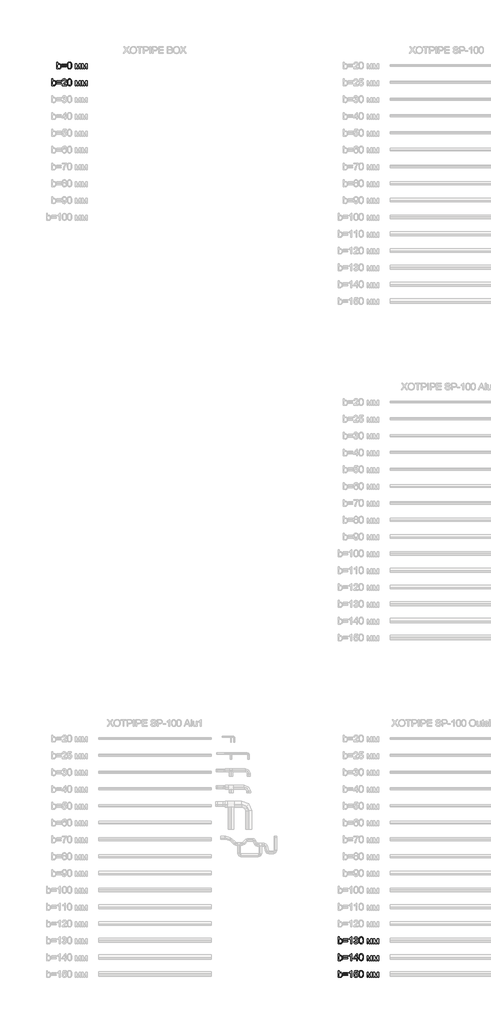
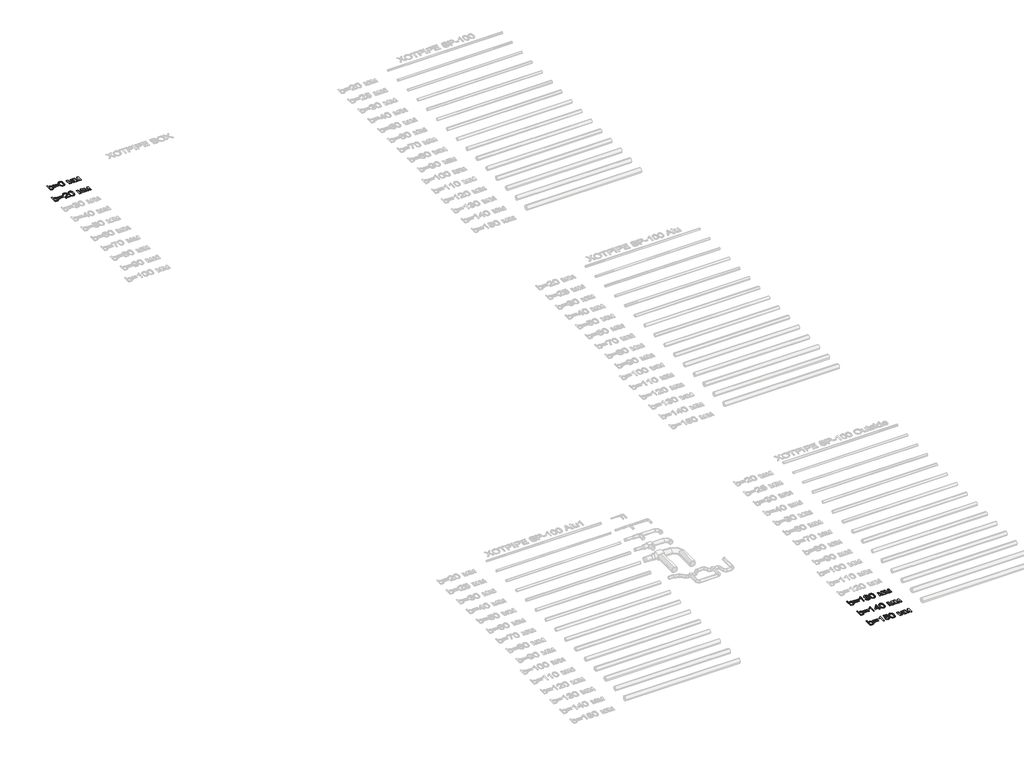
# One storey, part 49 of 86: 5 proxies.
"""IFC4 building model written with IfcOpenShell, lengths in millimetres."""

import ifcopenshell
import ifcopenshell.guid

model = None  # the IFC model being written
_history = None  # IfcOwnerHistory: only IFC2X3 demands one
_inside = {}  # id of a spatial element -> (the spatial element, [elements in it])
_under = {}  # id of a project, library or spatial element -> (it, [spatial elements below it])
_declared = {}  # id of a project -> (the project, [libraries it declares])
_typed = {}  # id of a type object -> (the type object, [elements of that type])
_made_of = {}  # id of a material, layer set ... -> (it, [elements and type objects made of it])


def new_model(schema):
    """Start an empty IFC model of exactly this schema.

    Asked for "IFC4X3", IfcOpenShell would pick the latest addendum, in which some entities
    have other attributes; the version numbers below select the first issue.
    IFC2X3 requires an IfcOwnerHistory on every rooted entity: one is made here for all.
    """
    global model, _history
    if schema == "IFC4X3":
        model = ifcopenshell.file(schema_version=(4, 3, 0, 0))
    else:
        model = ifcopenshell.file(schema=schema)
    _inside.clear()
    _under.clear()
    _declared.clear()
    _typed.clear()
    _made_of.clear()
    _history = None
    if model.schema == "IFC2X3":
        org = make("IfcOrganization", Name="unknown")
        user = make(
            "IfcPersonAndOrganization",
            ThePerson=make("IfcPerson", FamilyName="unknown"),
            TheOrganization=org,
        )
        app = make(
            "IfcApplication",
            ApplicationDeveloper=org,
            Version="unknown",
            ApplicationFullName="unknown",
            ApplicationIdentifier="unknown",
        )
        _history = make(
            "IfcOwnerHistory",
            OwningUser=user,
            OwningApplication=app,
            ChangeAction="ADDED",
            CreationDate=0,
        )
    return model


def make(cls, **values):
    """One entity of the class cls with the attributes given. An attribute that is None is left unset."""
    return model.create_entity(
        cls, **{name: value for name, value in values.items() if value is not None}
    )


def rooted(cls, **values):
    """An entity with a GlobalId (a new one), such as an element, a storey or a relation."""
    return make(cls, GlobalId=ifcopenshell.guid.new(), OwnerHistory=_history, **values)


def si_unit(unit_type, name, prefix=None):
    """IfcSIUnit, for example si_unit("LENGTHUNIT", "METRE", prefix="MILLI")."""
    return make("IfcSIUnit", UnitType=unit_type, Prefix=prefix, Name=name)


def assignment(units):
    """IfcUnitAssignment: the units of a project."""
    return None if units is None else make("IfcUnitAssignment", Units=units)


def point(xyz):
    """IfcCartesianPoint."""
    return None if xyz is None else make("IfcCartesianPoint", Coordinates=xyz)


def direction(xyz):
    """IfcDirection."""
    return None if xyz is None else make("IfcDirection", DirectionRatios=xyz)


def frame(location, z_axis=None, x_axis=None):
    """IfcAxis2Placement3D, a coordinate frame: its origin and axes. An axis left out is left unset."""
    return make(
        "IfcAxis2Placement3D",
        Location=point(location),
        Axis=direction(z_axis),
        RefDirection=direction(x_axis),
    )


def origin():
    """The frame at (0, 0, 0) with its axes left unset."""
    return frame((0.0, 0.0, 0.0))


def origin_with_axes():
    """The frame at (0, 0, 0) with the z axis (0, 0, 1) and the x axis (1, 0, 0) written out."""
    return frame((0.0, 0.0, 0.0), z_axis=(0.0, 0.0, 1.0), x_axis=(1.0, 0.0, 0.0))


def place(relative_to, where):
    """IfcLocalPlacement: puts the frame where relative to a parent placement (None: the world)."""
    return make(
        "IfcLocalPlacement", PlacementRelTo=relative_to, RelativePlacement=where
    )


def context(
    kind, dimensions, precision=None, world=None, true_north=None, identifier=None
):
    """IfcGeometricRepresentationContext, for example the 3D "Model" context."""
    return make(
        "IfcGeometricRepresentationContext",
        ContextIdentifier=identifier,
        ContextType=kind,
        CoordinateSpaceDimension=dimensions,
        Precision=precision,
        WorldCoordinateSystem=world,
        TrueNorth=true_north,
    )


def project(units=None, contexts=None):
    """IfcProject with its units and contexts."""
    return rooted(
        "IfcProject",
        Name="project",
        RepresentationContexts=contexts,
        UnitsInContext=assignment(units),
    )


def spatial(cls, under=None, at=None, **own):
    """A site, building, storey or space (cls), placed at a placement, below another one or the project."""
    s = rooted(cls, ObjectPlacement=at, **own)
    if under is not None:
        _under.setdefault(under.id(), (under, []))[1].append(s)
    return s


def polyline(points):
    """IfcPolyline through the points."""
    return make("IfcPolyline", Points=[point(p) for p in points])


def outline(outer, holes=None, kind="AREA"):
    """IfcArbitraryClosedProfileDef: a profile drawn as a closed curve; with holes, ...WithVoids."""
    if holes is None:
        return make("IfcArbitraryClosedProfileDef", ProfileType=kind, OuterCurve=outer)
    return make(
        "IfcArbitraryProfileDefWithVoids",
        ProfileType=kind,
        OuterCurve=outer,
        InnerCurves=holes,
    )


def extrude(swept, where, along, depth):
    """IfcExtrudedAreaSolid: the profile swept, set in the frame where, extruded along a direction by depth."""
    return make(
        "IfcExtrudedAreaSolid",
        SweptArea=swept,
        Position=where,
        ExtrudedDirection=direction(along),
        Depth=depth,
    )


def shape(context_of_items, identifier, shape_type, items):
    """IfcShapeRepresentation: the items that make up one representation, for example the "Body"."""
    return make(
        "IfcShapeRepresentation",
        ContextOfItems=context_of_items,
        RepresentationIdentifier=identifier,
        RepresentationType=shape_type,
        Items=items,
    )


def made_of(thing, what):
    """Note that an element or type object is made of a material, layer set ...; save() writes the relation."""
    if what is not None:
        _made_of.setdefault(what.id(), (what, []))[1].append(thing)
    return thing


def element(
    cls,
    number,
    at=None,
    inside=None,
    cuts=None,
    type_object=None,
    material=None,
    context=None,
    identifier="Body",
    shape_type=None,
    held_by="IfcProductDefinitionShape",
    body=None,
    shapes=None,
    **own,
):
    """One element of the class cls, such as IfcWall. Its Tag is "e" and its number.

    at: its placement. inside: the storey or other place that contains it. cuts: it is an
    opening in that element (IfcRelVoidsElement). A single representation is given by context,
    identifier, shape_type and body (its items); several are given by shapes. held_by: the class
    of the entity that holds the representations. save() writes the other relations.
    """
    e = rooted(cls, Tag="e%d" % number, ObjectPlacement=at, **own)
    if body is not None:
        shapes = [shape(context, identifier, shape_type, body)]
    if shapes is not None:
        e.Representation = make(held_by, Representations=shapes)
    if inside is not None:
        _inside.setdefault(inside.id(), (inside, []))[1].append(e)
    if cuts is not None:
        rooted(
            "IfcRelVoidsElement", RelatingBuildingElement=cuts, RelatedOpeningElement=e
        )
    if type_object is not None:
        _typed.setdefault(type_object.id(), (type_object, []))[1].append(e)
    return made_of(e, material)


def aggregate(whole, parts):
    """IfcRelAggregates: a whole, such as a stair, and the parts it consists of."""
    return rooted("IfcRelAggregates", RelatingObject=whole, RelatedObjects=parts)


def save(model, path):
    """Write the relations noted so far, then the file.

    IfcRelAggregates (storeys below a building ...), IfcRelContainedInSpatialStructure (elements
    in a storey), IfcRelDefinesByType, IfcRelAssociatesMaterial and IfcRelDeclares: one each for
    every whole, place, type object, material and project.
    """
    for whole, parts in _under.values():
        aggregate(whole, parts)
    for where, things in _inside.values():
        rooted(
            "IfcRelContainedInSpatialStructure",
            RelatedElements=things,
            RelatingStructure=where,
        )
    for kind, things in _typed.values():
        rooted("IfcRelDefinesByType", RelatedObjects=things, RelatingType=kind)
    for what, things in _made_of.values():
        rooted("IfcRelAssociatesMaterial", RelatedObjects=things, RelatingMaterial=what)
    for by, libraries in _declared.values():
        rooted("IfcRelDeclares", RelatingContext=by, RelatedDefinitions=libraries)
    model.write(path)


model = new_model("IFC4")

# Units and contexts
model_context = context("Model", 3, world=origin())
ifc_project = project(units=[si_unit("LENGTHUNIT", "METRE", prefix="MILLI")], contexts=[model_context])

# Site, building, storey
site = spatial("IfcSite", under=ifc_project)
building = spatial("IfcBuilding", under=site)
storey = spatial("IfcBuildingStorey", under=building, Name="Уровень 1", Elevation=0.0)

# Proxies
placement = place(None, origin())
element("IfcBuildingElementProxy", 1, Name="Текст модели 1", ObjectType="Текст модели 1", at=placement, inside=storey, context=model_context, shape_type="SweptSolid", body=[
    extrude(outline(polyline([(22698.159624, 11169.2937088), (22622.8173914, 11169.2937088), (22622.8173914, 11772.0315697), (22698.159624, 11772.0315697), (22698.159624, 11548.5064694), (22722.9364764, 11580.3742473), (22750.9139022, 11603.1369457), (22782.0919012, 11616.7945648), (22816.4704737, 11621.3471045), (22855.2820242, 11617.2452202), (22891.9598591, 11604.9395675), (22924.4070511, 11585.2026984), (22950.5266727, 11558.8071653), (22970.9993058, 11526.0104854), (22986.5055319, 11487.0701762), (22996.2727988, 11443.6049185), (22999.5285545, 11397.233393), (22996.1578357, 11343.7249568), (22986.0456794, 11296.6544555), (22969.1920855, 11256.0218892), (22945.597054, 11221.8272577), (22917.2747389, 11194.7235517), (22886.2392941, 11175.3637617), (22852.4907195, 11163.7478877), (22816.0290153, 11159.8759297), (22780.5192057, 11164.8699278), (22749.037704, 11179.8519221), (22721.5845101, 11204.8219125), (22698.159624, 11239.7798991), (22698.159624, 11169.2937088)]), holes=[polyline([(22698.159624, 11393.7017259), (22703.309972, 11330.8674811), (22709.7479069, 11307.065516), (22718.7610158, 11288.3403224), (22737.0171598, 11265.0993774), (22758.2347539, 11248.4987024), (22782.413798, 11238.5382973), (22809.5542922, 11235.2181623), (22832.0870644, 11237.6645776), (22853.037944, 11245.0038234), (22872.4069311, 11257.2358997), (22890.1940255, 11274.3608066), (22905.0656552, 11296.3325588), (22915.6882478, 11323.105171), (22922.0618034, 11354.6786432), (22924.1863219, 11391.0529755), (22922.1491753, 11428.1170865), (22916.0377357, 11459.9940614), (22905.8520029, 11486.6839001), (22891.5919771, 11508.1866028), (22874.4440776, 11524.7320955), (22855.5947239, 11536.5503046), (22835.0439159, 11543.64123), (22812.7916537, 11546.0048719), (22790.2588815, 11543.5584566), (22769.3080019, 11536.2192108), (22749.9390149, 11523.9871344), (22732.1519204, 11506.8622276), (22717.2802907, 11485.1112046), (22706.6576981, 11459.00078), (22700.2841426, 11428.5309538), (22698.159624, 11393.7017259)])]), origin_with_axes(), (0.0, 0.0, 1.0), 20.0),
    extrude(outline(polyline([(23470.4175083, 11517.7515346), (23074.8707871, 11517.7515346), (23074.8707871, 11593.0937672), (23470.4175083, 11593.0937672), (23470.4175083, 11517.7515346)])), origin_with_axes(), (0.0, 0.0, 1.0), 20.0),
    extrude(outline(polyline([(23470.4175083, 11338.8137322), (23074.8707871, 11338.8137322), (23074.8707871, 11414.1559648), (23470.4175083, 11414.1559648), (23470.4175083, 11338.8137322)])), origin_with_axes(), (0.0, 0.0, 1.0), 20.0),
    extrude(outline(polyline([(23837.7108923, 11169.2937088), (23762.3686597, 11169.2937088), (23762.3686597, 11639.0054402), (23730.9147491, 11613.5664003), (23690.9995526, 11588.1641485), (23649.0977934, 11565.9624701), (23611.6841945, 11550.1251502), (23611.6841945, 11621.3471045), (23670.8580134, 11653.5367791), (23722.1223694, 11691.8332947), (23762.5342066, 11732.5578316), (23789.1504689, 11772.0315697), (23837.7108923, 11772.0315697), (23837.7108923, 11169.2937088)])), origin_with_axes(), (0.0, 0.0, 1.0), 20.0),
    extrude(outline(polyline([(24016.6486948, 11329.3959531), (24091.9909274, 11338.8137322), (24108.8583168, 11291.4673194), (24120.230469, 11273.5606633), (24133.5615928, 11259.498374), (24149.1551909, 11248.8757814), (24167.3147659, 11241.2882153), (24188.0403178, 11236.7356756), (24211.3318466, 11235.2181623), (24238.6286906, 11237.3058927), (24262.9824787, 11243.5690836), (24284.3932108, 11254.0077352), (24302.860887, 11268.6218475), (24317.7325167, 11286.3169715), (24328.3551093, 11305.9986582), (24334.7286648, 11327.6669077), (24336.8531834, 11351.32172), (24334.7470589, 11373.8498937), (24328.4286857, 11394.3455193), (24317.8980636, 11412.808597), (24303.1551926, 11429.2391266), (24285.165763, 11442.7266002), (24264.8954651, 11452.36051), (24242.3442988, 11458.1408558), (24217.5122641, 11460.0676378), (24193.710299, 11458.0074986), (24164.6844096, 11451.8270811), (24173.0721191, 11527.1693137), (24185.1386485, 11526.2863969), (24230.2777694, 11531.6942622), (24270.6344242, 11547.9178582), (24287.2442963, 11560.1867228), (24299.1084907, 11575.3618551), (24306.2270073, 11593.4432551), (24308.5998461, 11614.430923), (24306.8799978, 11631.4684579), (24301.7204528, 11646.9700854), (24293.1212112, 11660.9358057), (24281.0822729, 11673.3656186), (24266.3302049, 11683.5697454), (24249.5915741, 11690.8584075), (24210.1546242, 11696.6893371), (24189.4980502, 11695.2178091), (24170.6440979, 11690.8032252), (24153.5927675, 11683.4455853), (24138.3440588, 11673.1448894), (24125.2750509, 11659.9011376), (24114.7628229, 11643.7143298), (24106.8073747, 11624.584466), (24101.4087064, 11602.5115463), (24026.0664738, 11611.9293254), (24034.9968093, 11647.8989875), (24048.2497581, 11679.5828243), (24065.8253205, 11706.9808359), (24087.7234962, 11730.0930222), (24113.2545067, 11748.4411368), (24141.7285731, 11761.5469328), (24173.1456955, 11769.4104105), (24207.5058739, 11772.0315697), (24254.8706807, 11766.8628277), (24298.3727267, 11751.3566016), (24335.0505616, 11726.8924489), (24361.9427354, 11694.8499271), (24378.4422429, 11657.9329689), (24383.9420787, 11618.8455069), (24378.7181544, 11582.4251894), (24363.0463814, 11549.3893862), (24337.147489, 11521.2464136), (24301.2422062, 11499.5045877), (24326.3501524, 11491.6503071), (24348.404678, 11480.4483003), (24367.4057831, 11465.8985674), (24383.3534676, 11448.0011083), (24395.97182, 11427.1973815), (24404.9849289, 11403.9288453), (24410.3927942, 11378.1954998), (24412.195416, 11349.9973448), (24408.5901724, 11311.7744055), (24397.7744418, 11276.5680986), (24379.748224, 11244.378424), (24354.5115191, 11215.2053818), (24323.7657814, 11190.9987465), (24289.212465, 11173.7082927), (24250.8515699, 11163.3340205), (24208.6830962, 11159.8759297), (24170.5705215, 11162.8281827), (24135.8424612, 11171.6849418), (24104.4989152, 11186.4462068), (24076.5398836, 11207.1119779), (24053.0966034, 11232.4682444), (24035.3003119, 11261.3009958), (24023.151009, 11293.610232), (24016.6486948, 11329.3959531)])), origin_with_axes(), (0.0, 0.0, 1.0), 20.0),
    extrude(outline(polyline([(24478.1198695, 11465.8065969), (24483.6564935, 11562.2836501), (24490.5772736, 11603.1967265), (24500.2663656, 11639.2261694), (24512.682383, 11670.6662845), (24527.7839389, 11697.8113772), (24545.5710333, 11720.6614476), (24566.0436664, 11739.2164957), (24589.2708158, 11753.5730906), (24615.3214596, 11763.8278012), (24644.1955977, 11769.9806276), (24675.8932301, 11772.0315697), (24722.3199379, 11767.1755274), (24763.8906034, 11752.6074004), (24798.6554519, 11728.8974058), (24824.664709, 11696.6157607), (24844.3096075, 11656.0383766), (24859.9813805, 11607.4411651), (24870.2452882, 11545.7289604), (24873.6665907, 11465.8065969), (24868.185149, 11369.8813667), (24861.3333468, 11329.106246), (24851.7408238, 11293.1227884), (24839.4213755, 11261.6688778), (24824.3887975, 11234.4823983), (24806.6430897, 11211.56335), (24786.1842523, 11192.9117329), (24762.9295116, 11178.458569), (24736.7960944, 11168.1348805), (24707.7840006, 11161.9406674), (24675.8932301, 11159.8759297), (24634.3961411, 11163.4627792), (24597.6079415, 11174.2233275), (24565.5286316, 11192.1575748), (24538.1582111, 11217.265521), (24511.8914367, 11262.6529621), (24493.1294549, 11319.2056218), (24481.8722659, 11386.9235001), (24478.1198695, 11465.8065969)]), holes=[polyline([(24553.4621021, 11465.9537497), (24555.6693941, 11400.456959), (24562.29127, 11347.440565), (24573.3277299, 11306.9045676), (24588.7787737, 11278.848967), (24607.467179, 11259.7604899), (24628.2157235, 11246.1258635), (24651.0244072, 11237.9450876), (24675.8932301, 11235.2181623), (24700.762053, 11237.9542847), (24723.5707367, 11246.1626517), (24744.3192812, 11259.8432634), (24763.0076866, 11278.9961198), (24778.4587304, 11307.0977057), (24789.4951902, 11347.624506), (24796.1170661, 11400.5765206), (24798.3243581, 11465.9537497), (24796.1906425, 11529.7168965), (24789.7894958, 11581.79979), (24779.120918, 11622.2024301), (24764.184909, 11650.9248169), (24745.8092033, 11670.9467945), (24724.8215355, 11685.248207), (24701.2219055, 11693.8290546), (24675.0103133, 11696.6893371), (24650.2702492, 11694.1693454), (24627.8478415, 11686.6093704), (24607.7430905, 11674.0094121), (24589.955996, 11656.3694704), (24573.9899175, 11625.0995008), (24562.5855756, 11582.9402242), (24555.7429705, 11529.8916405), (24553.4621021, 11465.9537497)])]), origin_with_axes(), (0.0, 0.0, 1.0), 20.0),
    extrude(outline(polyline([(25193.8710793, 11611.9293254), (25323.5126944, 11611.9293254), (25423.4294443, 11257.5853876), (25531.1452925, 11611.9293254), (25655.3422541, 11611.9293254), (25655.3422541, 11169.2937088), (25580.0000215, 11169.2937088), (25580.0000215, 11525.6977857), (25471.6955621, 11169.2937088), (25372.8088818, 11169.2937088), (25269.2133119, 11542.7675103), (25269.2133119, 11169.2937088), (25193.8710793, 11169.2937088), (25193.8710793, 11611.9293254)])), origin_with_axes(), (0.0, 0.0, 1.0), 20.0),
    extrude(outline(polyline([(25768.355603, 11611.9293254), (25897.9972181, 11611.9293254), (25997.913968, 11257.5853876), (26105.6298162, 11611.9293254), (26229.8267777, 11611.9293254), (26229.8267777, 11169.2937088), (26154.4845451, 11169.2937088), (26154.4845451, 11525.6977857), (26046.1800857, 11169.2937088), (25947.2934054, 11169.2937088), (25843.6978356, 11542.7675103), (25843.6978356, 11169.2937088), (25768.355603, 11169.2937088), (25768.355603, 11611.9293254)])), origin_with_axes(), (0.0, 0.0, 1.0), 20.0),
])
element("IfcBuildingElementProxy", 2, Name="Текст модели 1", ObjectType="Текст модели 1", at=placement, inside=storey, context=model_context, shape_type="SweptSolid", body=[
    extrude(outline(polyline([(22698.159624, 9669.2937088), (22622.8173914, 9669.2937088), (22622.8173914, 10272.0315697), (22698.159624, 10272.0315697), (22698.159624, 10048.5064694), (22722.9364764, 10080.3742473), (22750.9139022, 10103.1369457), (22782.0919012, 10116.7945648), (22816.4704737, 10121.3471045), (22855.2820242, 10117.2452202), (22891.9598591, 10104.9395675), (22924.4070511, 10085.2026984), (22950.5266727, 10058.8071653), (22970.9993058, 10026.0104854), (22986.5055319, 9987.0701762), (22996.2727988, 9943.6049185), (22999.5285545, 9897.233393), (22996.1578357, 9843.7249568), (22986.0456794, 9796.6544555), (22969.1920855, 9756.0218892), (22945.597054, 9721.8272577), (22917.2747389, 9694.7235517), (22886.2392941, 9675.3637617), (22852.4907195, 9663.7478877), (22816.0290153, 9659.8759297), (22780.5192057, 9664.8699278), (22749.037704, 9679.8519221), (22721.5845101, 9704.8219125), (22698.159624, 9739.7798991), (22698.159624, 9669.2937088)]), holes=[polyline([(22698.159624, 9893.7017259), (22703.309972, 9830.8674811), (22709.7479069, 9807.065516), (22718.7610158, 9788.3403224), (22737.0171598, 9765.0993774), (22758.2347539, 9748.4987024), (22782.413798, 9738.5382973), (22809.5542922, 9735.2181623), (22832.0870644, 9737.6645776), (22853.037944, 9745.0038234), (22872.4069311, 9757.2358997), (22890.1940255, 9774.3608066), (22905.0656552, 9796.3325588), (22915.6882478, 9823.105171), (22922.0618034, 9854.6786432), (22924.1863219, 9891.0529755), (22922.1491753, 9928.1170865), (22916.0377357, 9959.9940614), (22905.8520029, 9986.6839001), (22891.5919771, 10008.1866028), (22874.4440776, 10024.7320955), (22855.5947239, 10036.5503046), (22835.0439159, 10043.64123), (22812.7916537, 10046.0048719), (22790.2588815, 10043.5584566), (22769.3080019, 10036.2192108), (22749.9390149, 10023.9871344), (22732.1519204, 10006.8622276), (22717.2802907, 9985.1112046), (22706.6576981, 9959.00078), (22700.2841426, 9928.5309538), (22698.159624, 9893.7017259)])]), origin_with_axes(), (0.0, 0.0, 1.0), 20.0),
    extrude(outline(polyline([(23470.4175083, 10017.7515346), (23074.8707871, 10017.7515346), (23074.8707871, 10093.0937672), (23470.4175083, 10093.0937672), (23470.4175083, 10017.7515346)])), origin_with_axes(), (0.0, 0.0, 1.0), 20.0),
    extrude(outline(polyline([(23470.4175083, 9838.8137322), (23074.8707871, 9838.8137322), (23074.8707871, 9914.1559648), (23470.4175083, 9914.1559648), (23470.4175083, 9838.8137322)])), origin_with_axes(), (0.0, 0.0, 1.0), 20.0),
    extrude(outline(polyline([(23837.7108923, 9669.2937088), (23762.3686597, 9669.2937088), (23762.3686597, 10139.0054402), (23730.9147491, 10113.5664003), (23690.9995526, 10088.1641485), (23649.0977934, 10065.9624701), (23611.6841945, 10050.1251502), (23611.6841945, 10121.3471045), (23670.8580134, 10153.5367791), (23722.1223694, 10191.8332947), (23762.5342066, 10232.5578316), (23789.1504689, 10272.0315697), (23837.7108923, 10272.0315697), (23837.7108923, 9669.2937088)])), origin_with_axes(), (0.0, 0.0, 1.0), 20.0),
    extrude(outline(polyline([(24261.5109507, 9669.2937088), (24261.5109507, 9810.5603949), (23988.3953575, 9810.5603949), (23988.3953575, 9885.9026276), (24280.3465089, 10262.6137906), (24336.8531834, 10262.6137906), (24336.8531834, 9885.9026276), (24412.195416, 9885.9026276), (24412.195416, 9810.5603949), (24336.8531834, 9810.5603949), (24336.8531834, 9669.2937088), (24261.5109507, 9669.2937088)]), holes=[polyline([(24261.5109507, 9885.9026276), (24261.5109507, 10118.6983541), (24081.1016203, 9885.9026276), (24261.5109507, 9885.9026276)])]), origin_with_axes(), (0.0, 0.0, 1.0), 20.0),
    extrude(outline(polyline([(24478.1198695, 9965.8065969), (24483.6564935, 10062.2836501), (24490.5772736, 10103.1967265), (24500.2663656, 10139.2261694), (24512.682383, 10170.6662845), (24527.7839389, 10197.8113772), (24545.5710333, 10220.6614476), (24566.0436664, 10239.2164957), (24589.2708158, 10253.5730906), (24615.3214596, 10263.8278012), (24644.1955977, 10269.9806276), (24675.8932301, 10272.0315697), (24722.3199379, 10267.1755274), (24763.8906034, 10252.6074004), (24798.6554519, 10228.8974058), (24824.664709, 10196.6157607), (24844.3096075, 10156.0383766), (24859.9813805, 10107.4411651), (24870.2452882, 10045.7289604), (24873.6665907, 9965.8065969), (24868.185149, 9869.8813667), (24861.3333468, 9829.106246), (24851.7408238, 9793.1227884), (24839.4213755, 9761.6688778), (24824.3887975, 9734.4823983), (24806.6430897, 9711.56335), (24786.1842523, 9692.9117329), (24762.9295116, 9678.458569), (24736.7960944, 9668.1348805), (24707.7840006, 9661.9406674), (24675.8932301, 9659.8759297), (24634.3961411, 9663.4627792), (24597.6079415, 9674.2233275), (24565.5286316, 9692.1575748), (24538.1582111, 9717.265521), (24511.8914367, 9762.6529621), (24493.1294549, 9819.2056218), (24481.8722659, 9886.9235001), (24478.1198695, 9965.8065969)]), holes=[polyline([(24553.4621021, 9965.9537497), (24555.6693941, 9900.456959), (24562.29127, 9847.440565), (24573.3277299, 9806.9045676), (24588.7787737, 9778.848967), (24607.467179, 9759.7604899), (24628.2157235, 9746.1258635), (24651.0244072, 9737.9450876), (24675.8932301, 9735.2181623), (24700.762053, 9737.9542847), (24723.5707367, 9746.1626517), (24744.3192812, 9759.8432634), (24763.0076866, 9778.9961198), (24778.4587304, 9807.0977057), (24789.4951902, 9847.624506), (24796.1170661, 9900.5765206), (24798.3243581, 9965.9537497), (24796.1906425, 10029.7168965), (24789.7894958, 10081.79979), (24779.120918, 10122.2024301), (24764.184909, 10150.9248169), (24745.8092033, 10170.9467945), (24724.8215355, 10185.248207), (24701.2219055, 10193.8290546), (24675.0103133, 10196.6893371), (24650.2702492, 10194.1693454), (24627.8478415, 10186.6093704), (24607.7430905, 10174.0094121), (24589.955996, 10156.3694704), (24573.9899175, 10125.0995008), (24562.5855756, 10082.9402242), (24555.7429705, 10029.8916405), (24553.4621021, 9965.9537497)])]), origin_with_axes(), (0.0, 0.0, 1.0), 20.0),
    extrude(outline(polyline([(25193.8710793, 10111.9293254), (25323.5126944, 10111.9293254), (25423.4294443, 9757.5853876), (25531.1452925, 10111.9293254), (25655.3422541, 10111.9293254), (25655.3422541, 9669.2937088), (25580.0000215, 9669.2937088), (25580.0000215, 10025.6977857), (25471.6955621, 9669.2937088), (25372.8088818, 9669.2937088), (25269.2133119, 10042.7675103), (25269.2133119, 9669.2937088), (25193.8710793, 9669.2937088), (25193.8710793, 10111.9293254)])), origin_with_axes(), (0.0, 0.0, 1.0), 20.0),
    extrude(outline(polyline([(25768.355603, 10111.9293254), (25897.9972181, 10111.9293254), (25997.913968, 9757.5853876), (26105.6298162, 10111.9293254), (26229.8267777, 10111.9293254), (26229.8267777, 9669.2937088), (26154.4845451, 9669.2937088), (26154.4845451, 10025.6977857), (26046.1800857, 9669.2937088), (25947.2934054, 9669.2937088), (25843.6978356, 10042.7675103), (25843.6978356, 9669.2937088), (25768.355603, 9669.2937088), (25768.355603, 10111.9293254)])), origin_with_axes(), (0.0, 0.0, 1.0), 20.0),
])
element("IfcBuildingElementProxy", 3, Name="Текст модели 1", ObjectType="Текст модели 1", at=placement, inside=storey, context=model_context, shape_type="SweptSolid", body=[
    extrude(outline(polyline([(22698.159624, 8169.2937088), (22622.8173914, 8169.2937088), (22622.8173914, 8772.0315697), (22698.159624, 8772.0315697), (22698.159624, 8548.5064694), (22722.9364764, 8580.3742473), (22750.9139022, 8603.1369457), (22782.0919012, 8616.7945648), (22816.4704737, 8621.3471045), (22855.2820242, 8617.2452202), (22891.9598591, 8604.9395675), (22924.4070511, 8585.2026984), (22950.5266727, 8558.8071653), (22970.9993058, 8526.0104854), (22986.5055319, 8487.0701762), (22996.2727988, 8443.6049185), (22999.5285545, 8397.233393), (22996.1578357, 8343.7249568), (22986.0456794, 8296.6544555), (22969.1920855, 8256.0218892), (22945.597054, 8221.8272577), (22917.2747389, 8194.7235517), (22886.2392941, 8175.3637617), (22852.4907195, 8163.7478877), (22816.0290153, 8159.8759297), (22780.5192057, 8164.8699278), (22749.037704, 8179.8519221), (22721.5845101, 8204.8219125), (22698.159624, 8239.7798991), (22698.159624, 8169.2937088)]), holes=[polyline([(22698.159624, 8393.7017259), (22703.309972, 8330.8674811), (22709.7479069, 8307.065516), (22718.7610158, 8288.3403224), (22737.0171598, 8265.0993774), (22758.2347539, 8248.4987024), (22782.413798, 8238.5382973), (22809.5542922, 8235.2181623), (22832.0870644, 8237.6645776), (22853.037944, 8245.0038234), (22872.4069311, 8257.2358997), (22890.1940255, 8274.3608066), (22905.0656552, 8296.3325588), (22915.6882478, 8323.105171), (22922.0618034, 8354.6786432), (22924.1863219, 8391.0529755), (22922.1491753, 8428.1170865), (22916.0377357, 8459.9940614), (22905.8520029, 8486.6839001), (22891.5919771, 8508.1866028), (22874.4440776, 8524.7320955), (22855.5947239, 8536.5503046), (22835.0439159, 8543.64123), (22812.7916537, 8546.0048719), (22790.2588815, 8543.5584566), (22769.3080019, 8536.2192108), (22749.9390149, 8523.9871344), (22732.1519204, 8506.8622276), (22717.2802907, 8485.1112046), (22706.6576981, 8459.00078), (22700.2841426, 8428.5309538), (22698.159624, 8393.7017259)])]), origin_with_axes(), (0.0, 0.0, 1.0), 20.0),
    extrude(outline(polyline([(23470.4175083, 8517.7515346), (23074.8707871, 8517.7515346), (23074.8707871, 8593.0937672), (23470.4175083, 8593.0937672), (23470.4175083, 8517.7515346)])), origin_with_axes(), (0.0, 0.0, 1.0), 20.0),
    extrude(outline(polyline([(23470.4175083, 8338.8137322), (23074.8707871, 8338.8137322), (23074.8707871, 8414.1559648), (23470.4175083, 8414.1559648), (23470.4175083, 8338.8137322)])), origin_with_axes(), (0.0, 0.0, 1.0), 20.0),
    extrude(outline(polyline([(23837.7108923, 8169.2937088), (23762.3686597, 8169.2937088), (23762.3686597, 8639.0054402), (23730.9147491, 8613.5664003), (23690.9995526, 8588.1641485), (23649.0977934, 8565.9624701), (23611.6841945, 8550.1251502), (23611.6841945, 8621.3471045), (23670.8580134, 8653.5367791), (23722.1223694, 8691.8332947), (23762.5342066, 8732.5578316), (23789.1504689, 8772.0315697), (23837.7108923, 8772.0315697), (23837.7108923, 8169.2937088)])), origin_with_axes(), (0.0, 0.0, 1.0), 20.0),
    extrude(outline(polyline([(24016.6486948, 8329.3959531), (24091.9909274, 8338.8137322), (24097.6195219, 8314.5933013), (24105.8232904, 8293.5826409), (24116.6022328, 8275.7817508), (24129.9563493, 8261.1906312), (24145.8580485, 8249.8276761), (24164.2797394, 8241.7112795), (24185.221422, 8236.8414416), (24208.6830962, 8235.2181623), (24237.3778919, 8237.4760381), (24262.6881731, 8244.2496653), (24284.61394, 8255.539044), (24303.1551926, 8271.3441743), (24317.8980636, 8290.8833067), (24328.4286857, 8313.3746922), (24334.7470589, 8338.8183307), (24336.8531834, 8367.2142222), (24334.8804162, 8394.0512138), (24328.9621146, 8417.9083611), (24319.0982786, 8438.7856644), (24305.2889082, 8456.6831234), (24287.4880181, 8471.0397183), (24265.6496232, 8481.2944289), (24239.7737234, 8487.4472553), (24209.8603186, 8489.4981974), (24173.3112424, 8486.2240476), (24143.7151359, 8476.4015984), (24120.0787177, 8461.3552248), (24101.4087064, 8442.409302), (24026.0664738, 8451.8270811), (24091.9909274, 8762.6137906), (24383.9420787, 8762.6137906), (24383.9420787, 8687.271558), (24152.9121858, 8687.271558), (24120.685723, 8521.2832018), (24147.2743942, 8540.3394891), (24174.5068589, 8553.951123), (24202.3831171, 8562.1181032), (24230.9031687, 8564.84043), (24267.5947992, 8561.4651127), (24301.2973885, 8551.3391608), (24332.0109366, 8534.4625743), (24359.7354435, 8510.8353531), (24382.6866814, 8481.9014342), (24399.0804228, 8449.1047543), (24408.9166677, 8412.4453135), (24412.195416, 8371.9231117), (24409.243163, 8332.8908321), (24400.3864039, 8296.5808791), (24385.6251389, 8262.993253), (24364.9593678, 8232.1279536), (24333.65261, 8200.5176931), (24297.1219279, 8177.9389357), (24255.3673214, 8164.3916812), (24208.3887906, 8159.8759297), (24169.5082623, 8162.777599), (24134.3893273, 8171.4826067), (24103.0319858, 8185.9909529), (24075.4362376, 8206.3026375), (24052.4758026, 8231.4059852), (24035.0244004, 8260.2893203), (24023.0820311, 8292.952643), (24016.6486948, 8329.3959531)])), origin_with_axes(), (0.0, 0.0, 1.0), 20.0),
    extrude(outline(polyline([(24478.1198695, 8465.8065969), (24483.6564935, 8562.2836501), (24490.5772736, 8603.1967265), (24500.2663656, 8639.2261694), (24512.682383, 8670.6662845), (24527.7839389, 8697.8113772), (24545.5710333, 8720.6614476), (24566.0436664, 8739.2164957), (24589.2708158, 8753.5730906), (24615.3214596, 8763.8278012), (24644.1955977, 8769.9806276), (24675.8932301, 8772.0315697), (24722.3199379, 8767.1755274), (24763.8906034, 8752.6074004), (24798.6554519, 8728.8974058), (24824.664709, 8696.6157607), (24844.3096075, 8656.0383766), (24859.9813805, 8607.4411651), (24870.2452882, 8545.7289604), (24873.6665907, 8465.8065969), (24868.185149, 8369.8813667), (24861.3333468, 8329.106246), (24851.7408238, 8293.1227884), (24839.4213755, 8261.6688778), (24824.3887975, 8234.4823983), (24806.6430897, 8211.56335), (24786.1842523, 8192.9117329), (24762.9295116, 8178.458569), (24736.7960944, 8168.1348805), (24707.7840006, 8161.9406674), (24675.8932301, 8159.8759297), (24634.3961411, 8163.4627792), (24597.6079415, 8174.2233275), (24565.5286316, 8192.1575748), (24538.1582111, 8217.265521), (24511.8914367, 8262.6529621), (24493.1294549, 8319.2056218), (24481.8722659, 8386.9235001), (24478.1198695, 8465.8065969)]), holes=[polyline([(24553.4621021, 8465.9537497), (24555.6693941, 8400.456959), (24562.29127, 8347.440565), (24573.3277299, 8306.9045676), (24588.7787737, 8278.848967), (24607.467179, 8259.7604899), (24628.2157235, 8246.1258635), (24651.0244072, 8237.9450876), (24675.8932301, 8235.2181623), (24700.762053, 8237.9542847), (24723.5707367, 8246.1626517), (24744.3192812, 8259.8432634), (24763.0076866, 8278.9961198), (24778.4587304, 8307.0977057), (24789.4951902, 8347.624506), (24796.1170661, 8400.5765206), (24798.3243581, 8465.9537497), (24796.1906425, 8529.7168965), (24789.7894958, 8581.79979), (24779.120918, 8622.2024301), (24764.184909, 8650.9248169), (24745.8092033, 8670.9467945), (24724.8215355, 8685.248207), (24701.2219055, 8693.8290546), (24675.0103133, 8696.6893371), (24650.2702492, 8694.1693454), (24627.8478415, 8686.6093704), (24607.7430905, 8674.0094121), (24589.955996, 8656.3694704), (24573.9899175, 8625.0995008), (24562.5855756, 8582.9402242), (24555.7429705, 8529.8916405), (24553.4621021, 8465.9537497)])]), origin_with_axes(), (0.0, 0.0, 1.0), 20.0),
    extrude(outline(polyline([(25193.8710793, 8611.9293254), (25323.5126944, 8611.9293254), (25423.4294443, 8257.5853876), (25531.1452925, 8611.9293254), (25655.3422541, 8611.9293254), (25655.3422541, 8169.2937088), (25580.0000215, 8169.2937088), (25580.0000215, 8525.6977857), (25471.6955621, 8169.2937088), (25372.8088818, 8169.2937088), (25269.2133119, 8542.7675103), (25269.2133119, 8169.2937088), (25193.8710793, 8169.2937088), (25193.8710793, 8611.9293254)])), origin_with_axes(), (0.0, 0.0, 1.0), 20.0),
    extrude(outline(polyline([(25768.355603, 8611.9293254), (25897.9972181, 8611.9293254), (25997.913968, 8257.5853876), (26105.6298162, 8611.9293254), (26229.8267777, 8611.9293254), (26229.8267777, 8169.2937088), (26154.4845451, 8169.2937088), (26154.4845451, 8525.6977857), (26046.1800857, 8169.2937088), (25947.2934054, 8169.2937088), (25843.6978356, 8542.7675103), (25843.6978356, 8169.2937088), (25768.355603, 8169.2937088), (25768.355603, 8611.9293254)])), origin_with_axes(), (0.0, 0.0, 1.0), 20.0),
])
element("IfcBuildingElementProxy", 4, Name="Текст модели 1", ObjectType="Текст модели 1", at=placement, inside=storey, context=model_context, shape_type="SweptSolid", body=[
    extrude(outline(polyline([(-2840.3692012, 87669.2937088), (-2915.7114338, 87669.2937088), (-2915.7114338, 88272.0315697), (-2840.3692012, 88272.0315697), (-2840.3692012, 88048.5064694), (-2815.5923488, 88080.3742473), (-2787.6149231, 88103.1369457), (-2756.436924, 88116.7945648), (-2722.0583516, 88121.3471045), (-2683.2468011, 88117.2452202), (-2646.5689661, 88104.9395675), (-2614.1217742, 88085.2026984), (-2588.0021525, 88058.8071653), (-2567.5295195, 88026.0104854), (-2552.0232934, 87987.0701762), (-2542.2560264, 87943.6049185), (-2539.0002708, 87897.233393), (-2542.3709895, 87843.7249568), (-2552.4831459, 87796.6544555), (-2569.3367398, 87756.0218892), (-2592.9317712, 87721.8272577), (-2621.2540864, 87694.7235517), (-2652.2895312, 87675.3637617), (-2686.0381057, 87663.7478877), (-2722.49981, 87659.8759297), (-2758.0096195, 87664.8699278), (-2789.4911213, 87679.8519221), (-2816.9443152, 87704.8219125), (-2840.3692012, 87739.7798991), (-2840.3692012, 87669.2937088)]), holes=[polyline([(-2840.3692012, 87893.7017259), (-2835.2188533, 87830.8674811), (-2828.7809184, 87807.065516), (-2819.7678095, 87788.3403224), (-2801.5116655, 87765.0993774), (-2780.2940714, 87748.4987024), (-2756.1150273, 87738.5382973), (-2728.9745331, 87735.2181623), (-2706.4417609, 87737.6645776), (-2685.4908812, 87745.0038234), (-2666.1218942, 87757.2358997), (-2648.3347997, 87774.3608066), (-2633.4631701, 87796.3325588), (-2622.8405775, 87823.105171), (-2616.4670219, 87854.6786432), (-2614.3425034, 87891.0529755), (-2616.3796499, 87928.1170865), (-2622.4910896, 87959.9940614), (-2632.6768223, 87986.6839001), (-2646.9368481, 88008.1866028), (-2664.0847476, 88024.7320955), (-2682.9341014, 88036.5503046), (-2703.4849093, 88043.64123), (-2725.7371715, 88046.0048719), (-2748.2699437, 88043.5584566), (-2769.2208233, 88036.2192108), (-2788.5898104, 88023.9871344), (-2806.3769049, 88006.8622276), (-2821.2485345, 87985.1112046), (-2831.8711271, 87959.00078), (-2838.2446827, 87928.5309538), (-2840.3692012, 87893.7017259)])]), origin_with_axes(), (0.0, 0.0, 1.0), 20.0),
    extrude(outline(polyline([(-2068.1113169, 88017.7515346), (-2463.6580381, 88017.7515346), (-2463.6580381, 88093.0937672), (-2068.1113169, 88093.0937672), (-2068.1113169, 88017.7515346)])), origin_with_axes(), (0.0, 0.0, 1.0), 20.0),
    extrude(outline(polyline([(-2068.1113169, 87838.8137322), (-2463.6580381, 87838.8137322), (-2463.6580381, 87914.1559648), (-2068.1113169, 87914.1559648), (-2068.1113169, 87838.8137322)])), origin_with_axes(), (0.0, 0.0, 1.0), 20.0),
    extrude(outline(polyline([(-1597.2223631, 87744.6359414), (-1597.2223631, 87669.2937088), (-1992.7690843, 87669.2937088), (-1991.1136153, 87695.8180007), (-1984.6756804, 87721.2386465), (-1966.0976397, 87761.8344247), (-1938.9111602, 87801.2161923), (-1899.5845749, 87842.4373698), (-1844.5862167, 87888.5513779), (-1763.2842957, 87960.7666136), (-1714.5031432, 88014.0727147), (-1700.275307, 88035.8513288), (-1690.1125669, 88057.3356373), (-1684.0149228, 88078.5256402), (-1681.9823748, 88099.4213376), (-1683.8999597, 88119.0800317), (-1689.6527144, 88137.1476362), (-1699.2406389, 88153.624151), (-1712.6637332, 88168.5095763), (-1729.1770362, 88180.8382216), (-1748.035587, 88189.6443969), (-1769.2393855, 88194.928102), (-1792.7884317, 88196.6893371), (-1817.5974738, 88194.9694888), (-1839.7853566, 88189.8099438), (-1859.3520802, 88181.2107021), (-1876.2976446, 88169.1717638), (-1890.0058475, 88154.0977991), (-1899.8604864, 88136.3934781), (-1905.8615615, 88116.0588008), (-1908.0090726, 88093.0937672), (-1983.3513052, 88102.5115463), (-1976.8719836, 88141.4058703), (-1965.0859642, 88175.3889696), (-1947.993247, 88204.4608442), (-1925.593832, 88228.6214943), (-1898.402754, 88247.6134023), (-1866.9350479, 88261.1790508), (-1831.1907135, 88269.31844), (-1791.169751, 88272.0315697), (-1750.7901035, 88269.0149373), (-1714.8526311, 88259.9650403), (-1683.3573337, 88244.8818785), (-1656.3042115, 88223.7654519), (-1634.5761812, 88198.1792592), (-1619.0561595, 88169.6867986), (-1609.7441465, 88138.2880704), (-1606.6401422, 88103.9830743), (-1609.9878683, 88067.9490329), (-1620.0310468, 88032.5403908), (-1637.8549295, 87996.5247435), (-1664.5447682, 87958.6696862), (-1707.090321, 87913.4753831), (-1772.4813456, 87855.4419984), (-1859.1543437, 87782.9692453), (-1893.14664, 87744.6359414), (-1597.2223631, 87744.6359414)])), origin_with_axes(), (0.0, 0.0, 1.0), 20.0),
    extrude(outline(polyline([(-1521.8801305, 87965.8065969), (-1516.3435065, 88062.2836501), (-1509.4227264, 88103.1967265), (-1499.7336344, 88139.2261694), (-1487.317617, 88170.6662845), (-1472.2160611, 88197.8113772), (-1454.4289667, 88220.6614476), (-1433.9563336, 88239.2164957), (-1410.7291842, 88253.5730906), (-1384.6785404, 88263.8278012), (-1355.8044023, 88269.9806276), (-1324.1067699, 88272.0315697), (-1277.6800621, 88267.1755274), (-1236.1093966, 88252.6074004), (-1201.3445481, 88228.8974058), (-1175.335291, 88196.6157607), (-1155.6903925, 88156.0383766), (-1140.0186195, 88107.4411651), (-1129.7547118, 88045.7289604), (-1126.3334093, 87965.8065969), (-1131.814851, 87869.8813667), (-1138.6666532, 87829.106246), (-1148.2591762, 87793.1227884), (-1160.5786245, 87761.6688778), (-1175.6112025, 87734.4823983), (-1193.3569103, 87711.56335), (-1213.8157477, 87692.9117329), (-1237.0704884, 87678.458569), (-1263.2039056, 87668.1348805), (-1292.2159994, 87661.9406674), (-1324.1067699, 87659.8759297), (-1365.6038589, 87663.4627792), (-1402.3920585, 87674.2233275), (-1434.4713684, 87692.1575748), (-1461.8417889, 87717.265521), (-1488.1085633, 87762.6529621), (-1506.8705451, 87819.2056218), (-1518.1277341, 87886.9235001), (-1521.8801305, 87965.8065969)]), holes=[polyline([(-1446.5378979, 87965.9537497), (-1444.3306059, 87900.456959), (-1437.70873, 87847.440565), (-1426.6722701, 87806.9045676), (-1411.2212263, 87778.848967), (-1392.532821, 87759.7604899), (-1371.7842765, 87746.1258635), (-1348.9755928, 87737.9450876), (-1324.1067699, 87735.2181623), (-1299.237947, 87737.9542847), (-1276.4292633, 87746.1626517), (-1255.6807188, 87759.8432634), (-1236.9923134, 87778.9961198), (-1221.5412696, 87807.0977057), (-1210.5048098, 87847.624506), (-1203.8829339, 87900.5765206), (-1201.6756419, 87965.9537497), (-1203.8093575, 88029.7168965), (-1210.2105042, 88081.79979), (-1220.879082, 88122.2024301), (-1235.815091, 88150.9248169), (-1254.1907967, 88170.9467945), (-1275.1784645, 88185.248207), (-1298.7780945, 88193.8290546), (-1324.9896867, 88196.6893371), (-1349.7297508, 88194.1693454), (-1372.1521585, 88186.6093704), (-1392.2569095, 88174.0094121), (-1410.044004, 88156.3694704), (-1426.0100825, 88125.0995008), (-1437.4144244, 88082.9402242), (-1444.2570295, 88029.8916405), (-1446.5378979, 87965.9537497)])]), origin_with_axes(), (0.0, 0.0, 1.0), 20.0),
    extrude(outline(polyline([(-806.1289207, 88111.9293254), (-676.4873056, 88111.9293254), (-576.5705557, 87757.5853876), (-468.8547075, 88111.9293254), (-344.6577459, 88111.9293254), (-344.6577459, 87669.2937088), (-419.9999785, 87669.2937088), (-419.9999785, 88025.6977857), (-528.3044379, 87669.2937088), (-627.1911182, 87669.2937088), (-730.7866881, 88042.7675103), (-730.7866881, 87669.2937088), (-806.1289207, 87669.2937088), (-806.1289207, 88111.9293254)])), origin_with_axes(), (0.0, 0.0, 1.0), 20.0),
    extrude(outline(polyline([(-231.644397, 88111.9293254), (-102.0027819, 88111.9293254), (-2.086032, 87757.5853876), (105.6298162, 88111.9293254), (229.8267777, 88111.9293254), (229.8267777, 87669.2937088), (154.4845451, 87669.2937088), (154.4845451, 88025.6977857), (46.1800857, 87669.2937088), (-52.7065946, 87669.2937088), (-156.3021644, 88042.7675103), (-156.3021644, 87669.2937088), (-231.644397, 87669.2937088), (-231.644397, 88111.9293254)])), origin_with_axes(), (0.0, 0.0, 1.0), 20.0),
])
element("IfcBuildingElementProxy", 5, Name="Текст модели 1", ObjectType="Текст модели 1", at=placement, inside=storey, context=model_context, shape_type="SweptSolid", body=[
    extrude(outline(polyline([(-2378.8980265, 89169.2937088), (-2454.2402591, 89169.2937088), (-2454.2402591, 89772.0315697), (-2378.8980265, 89772.0315697), (-2378.8980265, 89548.5064694), (-2354.1211741, 89580.3742473), (-2326.1437483, 89603.1369457), (-2294.9657493, 89616.7945648), (-2260.5871768, 89621.3471045), (-2221.7756263, 89617.2452202), (-2185.0977914, 89604.9395675), (-2152.6505994, 89585.2026984), (-2126.5309778, 89558.8071653), (-2106.0583447, 89526.0104854), (-2090.5521186, 89487.0701762), (-2080.7848517, 89443.6049185), (-2077.529096, 89397.233393), (-2080.8998148, 89343.7249568), (-2091.0119711, 89296.6544555), (-2107.865565, 89256.0218892), (-2131.4605965, 89221.8272577), (-2159.7829116, 89194.7235517), (-2190.8183564, 89175.3637617), (-2224.566931, 89163.7478877), (-2261.0286352, 89159.8759297), (-2296.5384448, 89164.8699278), (-2328.0199465, 89179.8519221), (-2355.4731404, 89204.8219125), (-2378.8980265, 89239.7798991), (-2378.8980265, 89169.2937088)]), holes=[polyline([(-2378.8980265, 89393.7017259), (-2373.7476785, 89330.8674811), (-2367.3097436, 89307.065516), (-2358.2966347, 89288.3403224), (-2340.0404907, 89265.0993774), (-2318.8228966, 89248.4987024), (-2294.6438525, 89238.5382973), (-2267.5033583, 89235.2181623), (-2244.9705861, 89237.6645776), (-2224.0197065, 89245.0038234), (-2204.6507194, 89257.2358997), (-2186.863625, 89274.3608066), (-2171.9919953, 89296.3325588), (-2161.3694027, 89323.105171), (-2154.9958471, 89354.6786432), (-2152.8713286, 89391.0529755), (-2154.9084752, 89428.1170865), (-2161.0199148, 89459.9940614), (-2171.2056476, 89486.6839001), (-2185.4656734, 89508.1866028), (-2202.6135729, 89524.7320955), (-2221.4629266, 89536.5503046), (-2242.0137346, 89543.64123), (-2264.2659968, 89546.0048719), (-2286.798769, 89543.5584566), (-2307.7496486, 89536.2192108), (-2327.1186356, 89523.9871344), (-2344.9057301, 89506.8622276), (-2359.7773598, 89485.1112046), (-2370.3999524, 89459.00078), (-2376.7735079, 89428.5309538), (-2378.8980265, 89393.7017259)])]), origin_with_axes(), (0.0, 0.0, 1.0), 20.0),
    extrude(outline(polyline([(-1606.6401422, 89517.7515346), (-2002.1868634, 89517.7515346), (-2002.1868634, 89593.0937672), (-1606.6401422, 89593.0937672), (-1606.6401422, 89517.7515346)])), origin_with_axes(), (0.0, 0.0, 1.0), 20.0),
    extrude(outline(polyline([(-1606.6401422, 89338.8137322), (-2002.1868634, 89338.8137322), (-2002.1868634, 89414.1559648), (-1606.6401422, 89414.1559648), (-1606.6401422, 89338.8137322)])), origin_with_axes(), (0.0, 0.0, 1.0), 20.0),
    extrude(outline(polyline([(-1521.8801305, 89465.8065969), (-1516.3435065, 89562.2836501), (-1509.4227264, 89603.1967265), (-1499.7336344, 89639.2261694), (-1487.317617, 89670.6662845), (-1472.2160611, 89697.8113772), (-1454.4289667, 89720.6614476), (-1433.9563336, 89739.2164957), (-1410.7291842, 89753.5730906), (-1384.6785404, 89763.8278012), (-1355.8044023, 89769.9806276), (-1324.1067699, 89772.0315697), (-1277.6800621, 89767.1755274), (-1236.1093966, 89752.6074004), (-1201.3445481, 89728.8974058), (-1175.335291, 89696.6157607), (-1155.6903925, 89656.0383766), (-1140.0186195, 89607.4411651), (-1129.7547118, 89545.7289604), (-1126.3334093, 89465.8065969), (-1131.814851, 89369.8813667), (-1138.6666532, 89329.106246), (-1148.2591762, 89293.1227884), (-1160.5786245, 89261.6688778), (-1175.6112025, 89234.4823983), (-1193.3569103, 89211.56335), (-1213.8157477, 89192.9117329), (-1237.0704884, 89178.458569), (-1263.2039056, 89168.1348805), (-1292.2159994, 89161.9406674), (-1324.1067699, 89159.8759297), (-1365.6038589, 89163.4627792), (-1402.3920585, 89174.2233275), (-1434.4713684, 89192.1575748), (-1461.8417889, 89217.265521), (-1488.1085633, 89262.6529621), (-1506.8705451, 89319.2056218), (-1518.1277341, 89386.9235001), (-1521.8801305, 89465.8065969)]), holes=[polyline([(-1446.5378979, 89465.9537497), (-1444.3306059, 89400.456959), (-1437.70873, 89347.440565), (-1426.6722701, 89306.9045676), (-1411.2212263, 89278.848967), (-1392.532821, 89259.7604899), (-1371.7842765, 89246.1258635), (-1348.9755928, 89237.9450876), (-1324.1067699, 89235.2181623), (-1299.237947, 89237.9542847), (-1276.4292633, 89246.1626517), (-1255.6807188, 89259.8432634), (-1236.9923134, 89278.9961198), (-1221.5412696, 89307.0977057), (-1210.5048098, 89347.624506), (-1203.8829339, 89400.5765206), (-1201.6756419, 89465.9537497), (-1203.8093575, 89529.7168965), (-1210.2105042, 89581.79979), (-1220.879082, 89622.2024301), (-1235.815091, 89650.9248169), (-1254.1907967, 89670.9467945), (-1275.1784645, 89685.248207), (-1298.7780945, 89693.8290546), (-1324.9896867, 89696.6893371), (-1349.7297508, 89694.1693454), (-1372.1521585, 89686.6093704), (-1392.2569095, 89674.0094121), (-1410.044004, 89656.3694704), (-1426.0100825, 89625.0995008), (-1437.4144244, 89582.9402242), (-1444.2570295, 89529.8916405), (-1446.5378979, 89465.9537497)])]), origin_with_axes(), (0.0, 0.0, 1.0), 20.0),
    extrude(outline(polyline([(-806.1289207, 89611.9293254), (-676.4873056, 89611.9293254), (-576.5705557, 89257.5853876), (-468.8547075, 89611.9293254), (-344.6577459, 89611.9293254), (-344.6577459, 89169.2937088), (-419.9999785, 89169.2937088), (-419.9999785, 89525.6977857), (-528.3044379, 89169.2937088), (-627.1911182, 89169.2937088), (-730.7866881, 89542.7675103), (-730.7866881, 89169.2937088), (-806.1289207, 89169.2937088), (-806.1289207, 89611.9293254)])), origin_with_axes(), (0.0, 0.0, 1.0), 20.0),
    extrude(outline(polyline([(-231.644397, 89611.9293254), (-102.0027819, 89611.9293254), (-2.086032, 89257.5853876), (105.6298162, 89611.9293254), (229.8267777, 89611.9293254), (229.8267777, 89169.2937088), (154.4845451, 89169.2937088), (154.4845451, 89525.6977857), (46.1800857, 89169.2937088), (-52.7065946, 89169.2937088), (-156.3021644, 89542.7675103), (-156.3021644, 89169.2937088), (-231.644397, 89169.2937088), (-231.644397, 89611.9293254)])), origin_with_axes(), (0.0, 0.0, 1.0), 20.0),
])

save(model, "model.ifc")
